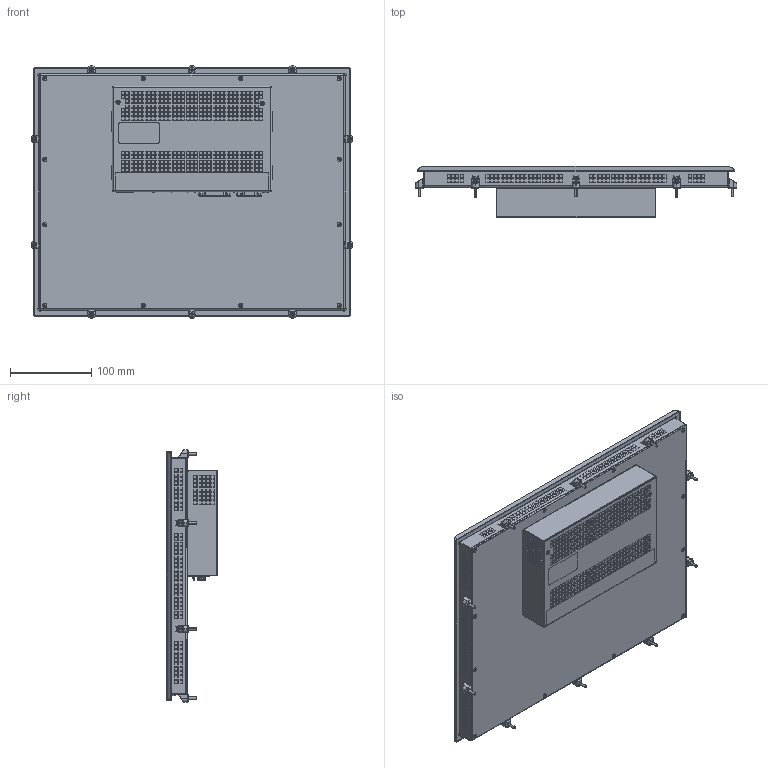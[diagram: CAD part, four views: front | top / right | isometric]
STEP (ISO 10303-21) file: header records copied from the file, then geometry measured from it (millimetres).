
FILE_DESCRIPTION (( 'STEP AP214' ), '1' );
FILE_NAME ('C6S14_150_RES_UPS_DB15.STEP', '2019-07-29T09:49:55', ( '' ), ( '' ), 'SwSTEP 2.0', 'SolidWorks 2018', '' );
FILE_SCHEMA (( 'AUTOMOTIVE_DESIGN' ));
Length unit declared in the file: millimetre
Products named in the file (5): DB15_Male_pin; C6S14_150_RES_UPS_1; C6S14_150_RES; C6S14_150_RES_UPS_DB15; C6S14_150_RES_ASM
Assembly tree (4 placements, depth 3):
  C6S14_150_RES_UPS_DB15
    C6S14_150_RES_ASM
    C6S14_150_RES
      C6S14_150_RES_UPS_1
      DB15_Male_pin
Bounding box: 395 x 62.79 x 310 mm (x, y, z)
Surface area: 651196.2 mm2
Topology: 1 solids, 4761 shells, 5032 faces, 29112 edges, 28846 vertices
Faces by surface type: plane 3851, cylinder 789, cone 203, bspline 127, torus 42, sphere 20
Entity records: 333751 total; most frequent: CARTESIAN_POINT 126947, DIRECTION 33700, ORIENTED_EDGE 29687, EDGE_CURVE 29076, VERTEX_POINT 28829, VECTOR 20058, LINE 20058, B_SPLINE_CURVE_WITH_KNOTS 6974
